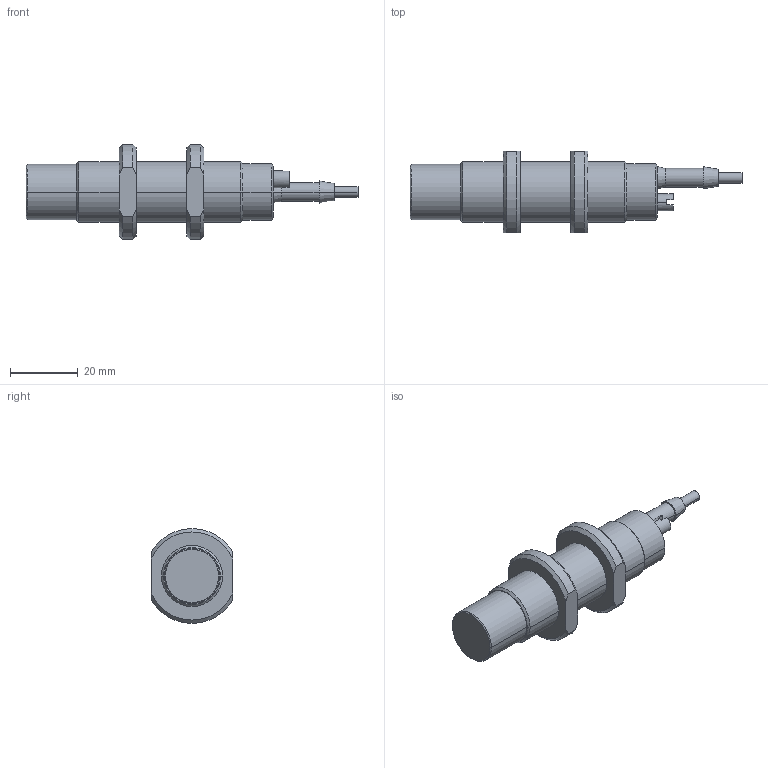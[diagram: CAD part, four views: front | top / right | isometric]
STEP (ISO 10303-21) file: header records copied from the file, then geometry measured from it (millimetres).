
FILE_DESCRIPTION( ( '' ), '1' );
FILE_NAME( 'F:/E-Medien/CADENAS/Exporte/44672_01.stp', '2010-10-25T11:04:25', ( '' ), ( '' ), ' ', ' ', ' ' );
FILE_SCHEMA( ( 'CONFIG_CONTROL_DESIGN' ) );
Length unit declared in the file: millimetre
Products named in the file (3): 1; 2; 3
Bounding box: 98 x 24 x 28 mm (x, y, z)
Volume: 21508.9 mm3; surface area: 7512.8 mm2
Topology: 3 solids, 3 shells, 68 faces, 152 edges, 94 vertices
Faces by surface type: cone 28, cylinder 20, plane 20
Entity records: 2020 total; most frequent: DIRECTION 354, CARTESIAN_POINT 349, ORIENTED_EDGE 304, EDGE_CURVE 152, AXIS2_PLACEMENT_3D 147, VERTEX_POINT 94, EDGE_LOOP 76, CIRCLE 76
